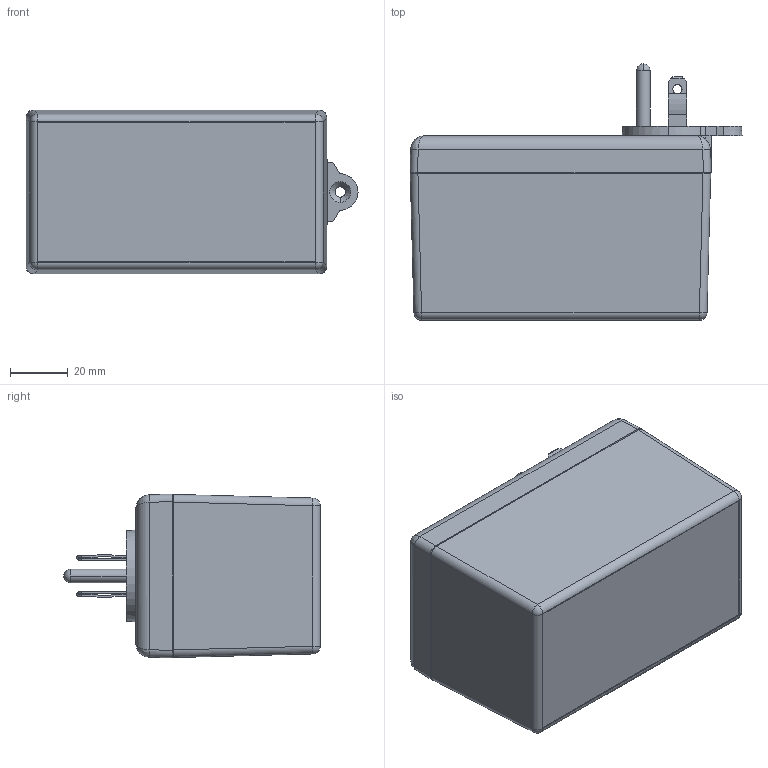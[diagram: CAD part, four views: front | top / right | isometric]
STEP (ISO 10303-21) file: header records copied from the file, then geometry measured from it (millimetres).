
FILE_DESCRIPTION (( 'STEP AP214' ), '1' );
FILE_NAME ('PM2425R03XWT.STEP', '2010-07-15T14:16:11', ( '' ), ( '' ), 'SwSTEP 2.0', 'SolidWorks 2010', '' );
FILE_SCHEMA (( 'AUTOMOTIVE_DESIGN' ));
Length unit declared in the file: inch
Products named in the file (10): TS-2420B AND PM2420_TS-2420BP-R; B2405 ASS''Y_B24053XWT; MPB2405_MPB24053WT; GND-PIN; BLADES; WELD DISC-PS-BK; GND-TAB; SCREWS-HL1-BR; B2405-PCB; PM2425R03XWT
Assembly tree (13 placements, depth 3):
  PM2425R03XWT
    SCREWS-HL1-BR  x4
    B2405-PCB
    TS-2420B AND PM2420_TS-2420BP-R
    B2405 ASS''Y_B24053XWT
      MPB2405_MPB24053WT
      GND-TAB
      WELD DISC-PS-BK
      BLADES  x2
      GND-PIN
Bounding box: 115.34 x 89.03 x 56.95 mm (x, y, z)
Volume: 88958.7 mm3; surface area: 83313.4 mm2
Topology: 12 solids, 12 shells, 947 faces, 2631 edges, 1713 vertices
Faces by surface type: cylinder 520, plane 291, cone 82, bspline 28, sphere 14, torus 12
Entity records: 20460 total; most frequent: CARTESIAN_POINT 6517, ORIENTED_EDGE 2972, DIRECTION 2726, EDGE_CURVE 1486, AXIS2_PLACEMENT_3D 983, VERTEX_POINT 963, VECTOR 760, LINE 760
